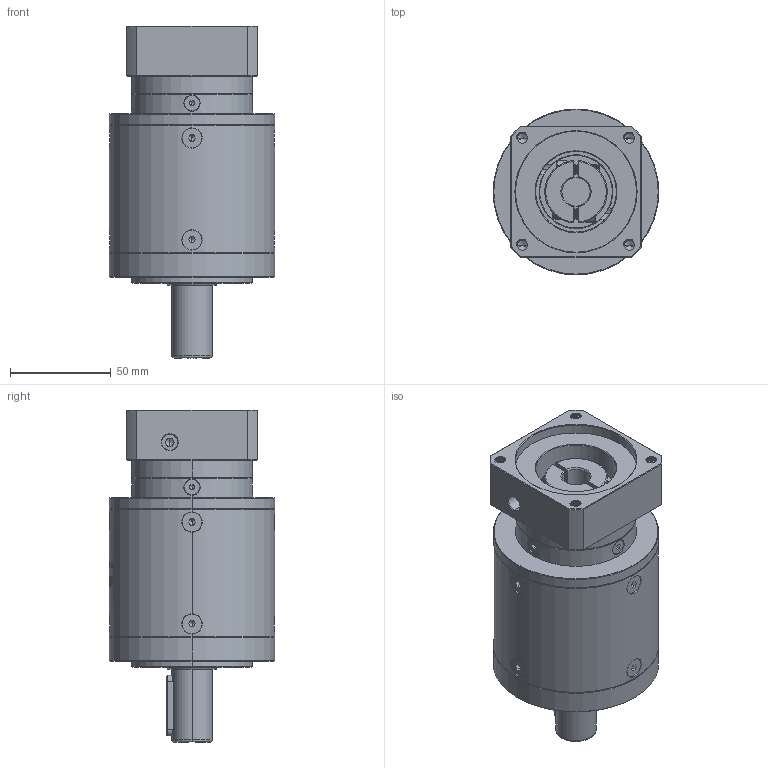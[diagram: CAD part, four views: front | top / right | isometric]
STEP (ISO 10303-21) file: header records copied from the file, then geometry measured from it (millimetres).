
FILE_DESCRIPTION (( 'STEP AP214' ), '1' );
FILE_NAME ('ZE80-D20-L3-14-60-75-M6.step', '2022-05-08T06:01:56', ( '' ), ( 'Microsoft' ), 'SwSTEP 2.0', 'SolidWorks 2016', '' );
FILE_SCHEMA (( 'AUTOMOTIVE_DESIGN' ));
Length unit declared in the file: millimetre
Products named in the file (1): ZE80-D20-L3-14-60-75-M6
Bounding box: 82 x 82 x 164.5 mm (x, y, z)
Volume: 558465.9 mm3; surface area: 72397.5 mm2
Topology: 18 solids, 18 shells, 2136 faces, 5613 edges, 3569 vertices
Faces by surface type: plane 948, cylinder 521, bspline 340, cone 313, torus 14
Entity records: 121814 total; most frequent: CARTESIAN_POINT 49874, ORIENTED_EDGE 11134, DIRECTION 8669, EDGE_CURVE 5567, VERTEX_POINT 3569, LINE 2965, VECTOR 2965, AXIS2_PLACEMENT_3D 2852
